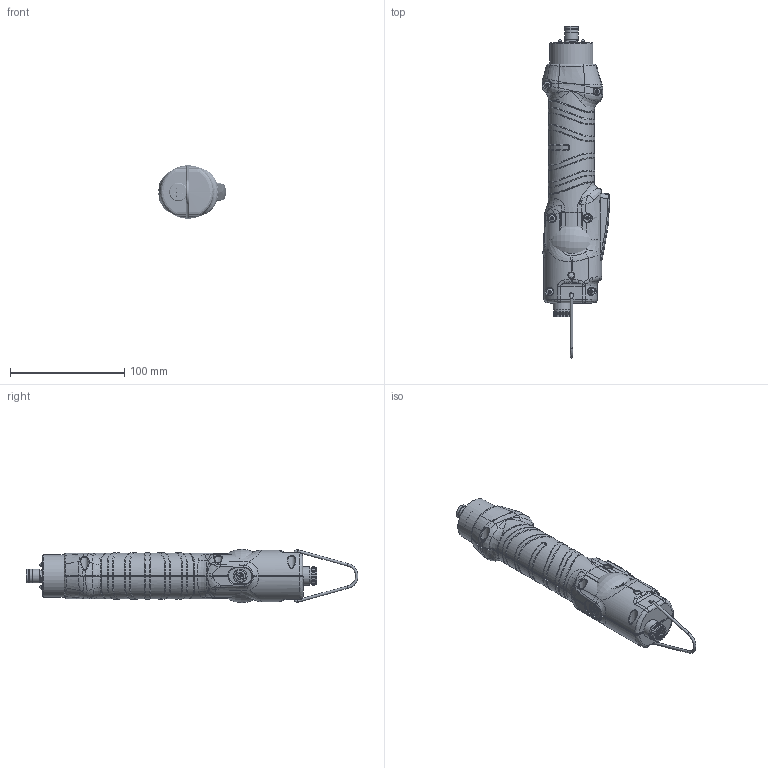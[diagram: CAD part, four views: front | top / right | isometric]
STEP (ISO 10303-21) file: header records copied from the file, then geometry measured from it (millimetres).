
FILE_DESCRIPTION (( 'STEP AP214' ), '1' );
FILE_NAME ('KDS-MT1.5-LED-ESD.STEP', '2025-09-03T09:10:38', ( '' ), ( '' ), 'SwSTEP 2.0', 'SolidWorks 2024', '' );
FILE_SCHEMA (( 'AUTOMOTIVE_DESIGN' ));
Length unit declared in the file: millimetre
Products named in the file (1): KDS-MT1.5-LED-ESD
Bounding box: 58.96 x 290.12 x 46.6 mm (x, y, z)
Surface area: 140030.3 mm2 (no closed solid volume)
Topology: 0 solids, 77 shells, 4147 faces, 10752 edges, 6818 vertices
Faces by surface type: plane 1678, bspline 1346, cylinder 786, cone 266, torus 65, sphere 6
Full cylindrical faces by diameter (mm): 0.85 x8, 1 x28, 1.6 x3, 1.778 x2, 1.89 x2, 2 x4, 2.1 x13, 2.2 x5, 2.5 x9, 2.6 x8, 3 x16, 3.1 x4, 3.2 x10, 3.5 x2, 3.75 x4, 3.861 x2, 4 x5, 4.2 x1, 4.5 x5, 5.004 x2, 5.5 x4, 5.6 x6, 5.7 x4, 6 x3, 7.8 x1, 8 x4, 9 x1, 9.75 x2, 9.8 x1, 10.8 x1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
Entity records: 268634 total; most frequent: CARTESIAN_POINT 137123, ORIENTED_EDGE 19974, DIRECTION 13476, EDGE_CURVE 10131, VERTEX_POINT 6665, EDGE_LOOP 4896, AXIS2_PLACEMENT_3D 4540, FACE_OUTER_BOUND 4453
